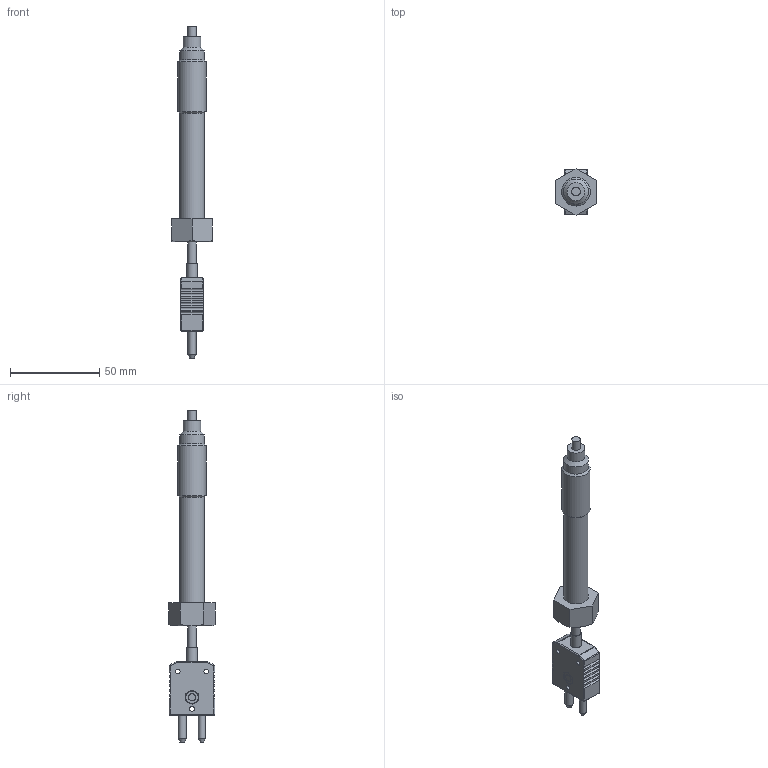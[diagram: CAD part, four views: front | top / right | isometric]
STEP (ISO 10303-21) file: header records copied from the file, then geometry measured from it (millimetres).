
FILE_DESCRIPTION (( 'STEP AP203' ), '1' );
FILE_NAME ('YIT270Z-3(0).STEP', '2025-07-30T05:11:34', ( '' ), ( '' ), 'SwSTEP 2.0', 'SolidWorks 2024', '' );
FILE_SCHEMA (( 'CONFIG_CONTROL_DESIGN' ));
Length unit declared in the file: millimetre
Products named in the file (1): YIT270Z-3(0)
Bounding box: 22.52 x 26 x 186 mm (x, y, z)
Volume: 32252.6 mm3; surface area: 10783.1 mm2
Topology: 1 solids, 1 shells, 174 faces, 440 edges, 276 vertices
Faces by surface type: cylinder 73, plane 69, cone 17, sphere 12, torus 3
Full cylindrical faces by diameter (mm): 2.6 x3, 3.9 x2, 4 x4, 4.7 x1, 4.8 x1, 5 x1, 6 x1, 6.7 x1, 7 x1, 10 x1, 14 x2, 16 x1
Entity records: 5444 total; most frequent: CARTESIAN_POINT 1434, ORIENTED_EDGE 794, DIRECTION 789, EDGE_CURVE 397, AXIS2_PLACEMENT_3D 293, VERTEX_POINT 266, EDGE_LOOP 221, VECTOR 203
